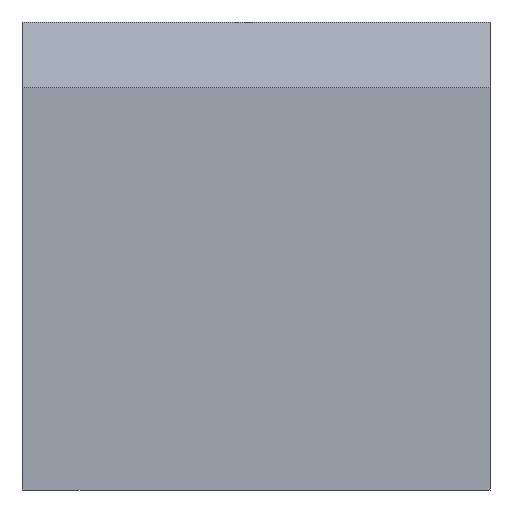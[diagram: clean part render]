
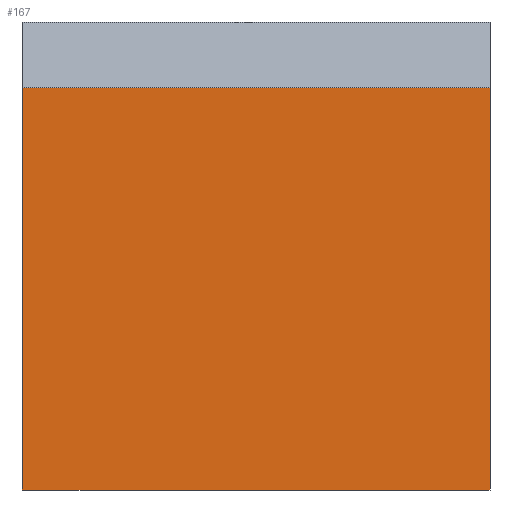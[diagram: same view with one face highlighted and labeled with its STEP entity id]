
A CAD part, front view. The second image highlights one B-rep face of the part: STEP entity #167.
In plain terms, the highlighted planar face has unit normal (0, -1, 0).
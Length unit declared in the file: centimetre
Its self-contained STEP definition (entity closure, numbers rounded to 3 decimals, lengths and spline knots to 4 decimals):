
#36 = CARTESIAN_POINT ( 'NONE',  ( 0., 0., 859.914 ) ) ;
#56 = CARTESIAN_POINT ( 'NONE',  ( 0., 0., 1000. ) ) ;
#60 = PLANE ( 'NONE',  #249 ) ;
#61 = VERTEX_POINT ( 'NONE', #121 ) ;
#68 = VERTEX_POINT ( 'NONE', #194 ) ;
#121 = CARTESIAN_POINT ( 'NONE',  ( 0., 0., 859.914 ) ) ;
#150 = VERTEX_POINT ( 'NONE', #683 ) ;
#157 = VECTOR ( 'NONE', #553, 100. ) ;
#166 = VECTOR ( 'NONE', #568, 100. ) ;
#167 = ADVANCED_FACE ( 'NONE', ( #827 ), #60, .F. ) ;
#184 = DIRECTION ( 'NONE',  ( 0., 0., 1. ) ) ;
#191 = EDGE_CURVE ( 'NONE', #150, #298, #637, .T. ) ;
#194 = CARTESIAN_POINT ( 'NONE',  ( 1000., 0., 859.914 ) ) ;
#219 = DIRECTION ( 'NONE',  ( 0., 0., -1. ) ) ;
#249 = AXIS2_PLACEMENT_3D ( 'NONE', #56, #511, #184 ) ;
#262 = ORIENTED_EDGE ( 'NONE', *, *, #361, .T. ) ;
#270 = VECTOR ( 'NONE', #823, 100. ) ;
#298 = VERTEX_POINT ( 'NONE', #442 ) ;
#361 = EDGE_CURVE ( 'NONE', #68, #61, #744, .T. ) ;
#432 = LINE ( 'NONE', #548, #157 ) ;
#442 = CARTESIAN_POINT ( 'NONE',  ( 1000., 0., 0. ) ) ;
#508 = EDGE_CURVE ( 'NONE', #68, #298, #547, .T. ) ;
#511 = DIRECTION ( 'NONE',  ( 0., 1., 0. ) ) ;
#523 = EDGE_CURVE ( 'NONE', #61, #150, #432, .T. ) ;
#547 = LINE ( 'NONE', #792, #556 ) ;
#548 = CARTESIAN_POINT ( 'NONE',  ( 0., 0., 1000. ) ) ;
#553 = DIRECTION ( 'NONE',  ( 0., 0., -1. ) ) ;
#556 = VECTOR ( 'NONE', #219, 100. ) ;
#568 = DIRECTION ( 'NONE',  ( -1., 0., 0. ) ) ;
#587 = ORIENTED_EDGE ( 'NONE', *, *, #508, .F. ) ;
#631 = EDGE_LOOP ( 'NONE', ( #587, #262, #716, #655 ) ) ;
#637 = LINE ( 'NONE', #750, #270 ) ;
#655 = ORIENTED_EDGE ( 'NONE', *, *, #191, .T. ) ;
#683 = CARTESIAN_POINT ( 'NONE',  ( 0., 0., 0. ) ) ;
#716 = ORIENTED_EDGE ( 'NONE', *, *, #523, .T. ) ;
#744 = LINE ( 'NONE', #36, #166 ) ;
#750 = CARTESIAN_POINT ( 'NONE',  ( 0., 0., 0. ) ) ;
#792 = CARTESIAN_POINT ( 'NONE',  ( 1000., 0., 1000. ) ) ;
#823 = DIRECTION ( 'NONE',  ( 1., 0., 0. ) ) ;
#827 = FACE_OUTER_BOUND ( 'NONE', #631, .T. ) ;
